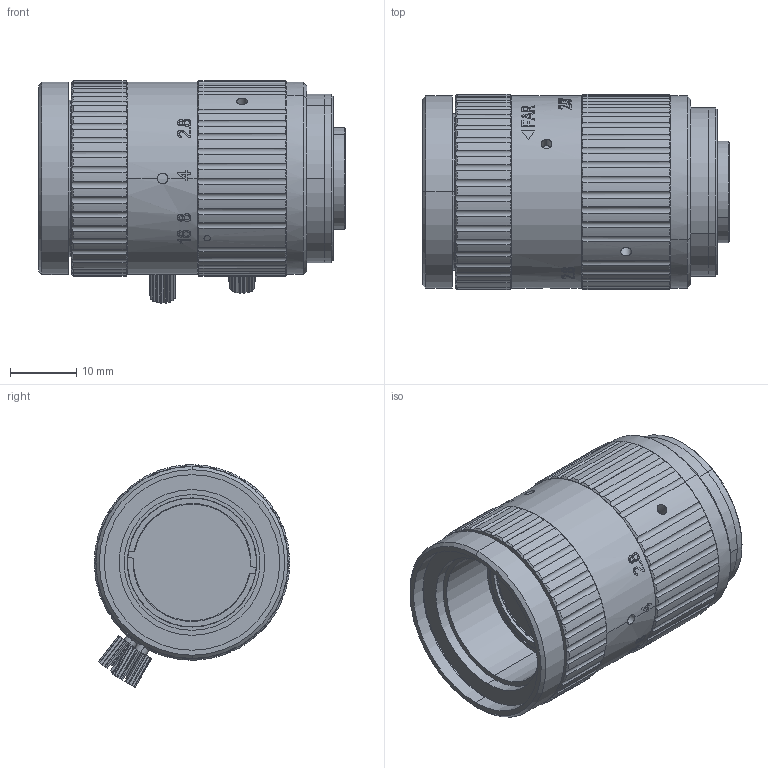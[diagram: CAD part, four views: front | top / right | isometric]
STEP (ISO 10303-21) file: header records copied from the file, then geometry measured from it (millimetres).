
FILE_DESCRIPTION((''),'2;1');
FILE_NAME('35MM000_ASM','2022-04-03T10:41:23',('Administrator'),(''),'CREO PARAMETRIC BY PTC INC, 2020053','CREO PARAMETRIC BY PTC INC, 2020053','');
FILE_SCHEMA(('CONFIG_CONTROL_DESIGN'));
Products named in the file (1): 35MM000_ASM
Bounding box: 46.34 x 29.5 x 33.59 mm (x, y, z)
Volume: 15174.7 mm3; surface area: 18993.7 mm2
Topology: 2 solids, 4 shells, 1201 faces, 3191 edges, 2080 vertices
Faces by surface type: cylinder 369, plane 341, bspline 249, cone 198, extrusion 38, sphere 6
Entity records: 52883 total; most frequent: CARTESIAN_POINT 24629, ORIENTED_EDGE 6370, DIRECTION 5109, EDGE_CURVE 3185, VERTEX_POINT 2080, AXIS2_PLACEMENT_3D 1882, VECTOR 1345, LINE 1307
